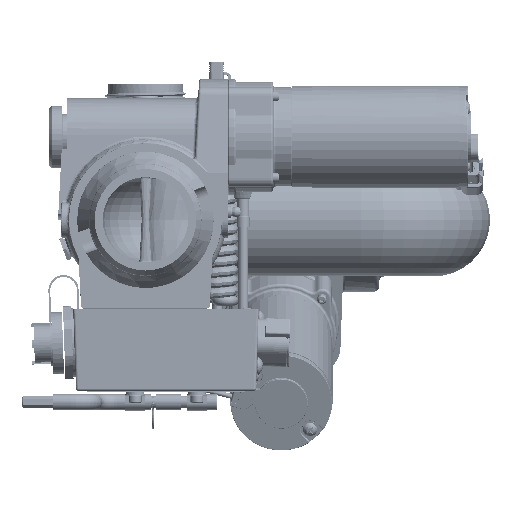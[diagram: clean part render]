
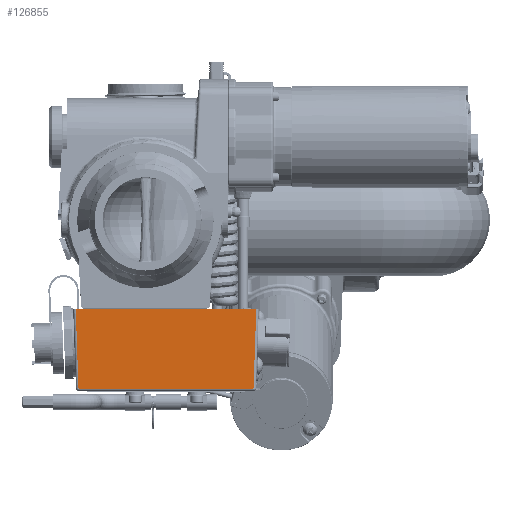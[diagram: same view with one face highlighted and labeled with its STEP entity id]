
A CAD part, front view. The second image highlights one B-rep face of the part: STEP entity #126855.
In plain terms, the highlighted planar face has unit normal (0, -0.999, -0.035) as drawn and (0, -0.035, -0.999) by its records, which use the part's own axes.
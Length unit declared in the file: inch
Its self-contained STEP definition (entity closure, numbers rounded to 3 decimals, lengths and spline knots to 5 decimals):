
#124622=CARTESIAN_POINT('',(-2.19455,0.,-1.63002));
#124633=DIRECTION('',(-1.,0.,0.));
#124634=VECTOR('',#124633,4.38911);
#124635=CARTESIAN_POINT('',(2.19455,0.,-1.63002));
#124636=LINE('',#124635,#124634);
#124646=CARTESIAN_POINT('',(2.19455,0.,-1.63002));
#125674=DIRECTION('',(-0.035,-0.999,0.035));
#125675=VECTOR('',#125674,1.94681);
#125676=CARTESIAN_POINT('',(2.19455,0.,-1.63002));
#125677=LINE('',#125676,#125675);
#125681=DIRECTION('',(0.035,-0.999,0.035));
#125682=VECTOR('',#125681,1.94681);
#125683=CARTESIAN_POINT('',(-2.19455,0.,-1.63002));
#125684=LINE('',#125683,#125682);
#125688=DIRECTION('',(1.,0.,0.));
#125689=VECTOR('',#125688,4.25331);
#125690=CARTESIAN_POINT('',(-2.12666,-1.94444,
-1.56211));
#125691=LINE('',#125690,#125689);
#125931=CARTESIAN_POINT('',(-2.12666,-1.94468,
-1.56211));
#125933=VERTEX_POINT('',#125931);
#125934=CARTESIAN_POINT('',(2.12666,-1.94468,
-1.56211));
#125936=VERTEX_POINT('',#125934);
#125949=VERTEX_POINT('',#124646);
#125950=VERTEX_POINT('',#124622);
#126844=CARTESIAN_POINT('',(2.1875,-2.005,-1.56));
#126845=DIRECTION('',(0.,-0.035,-0.999));
#126846=DIRECTION('',(-1.,0.,0.));
#126847=AXIS2_PLACEMENT_3D('',#126844,#126845,#126846);
#126848=PLANE('',#126847);
#126849=ORIENTED_EDGE('',*,*,#126596,.F.);
#126850=ORIENTED_EDGE('',*,*,#126155,.T.);
#126851=ORIENTED_EDGE('',*,*,#126837,.T.);
#126852=ORIENTED_EDGE('',*,*,#126570,.T.);
#126853=EDGE_LOOP('',(#126849,#126850,#126851,#126852));
#126854=FACE_OUTER_BOUND('',#126853,.F.);
#126855=ADVANCED_FACE('',(#126854),#126848,.T.);
#126155=EDGE_CURVE('',#125949,#125950,#124636,.T.);
#126570=EDGE_CURVE('',#125933,#125936,#125691,.T.);
#126596=EDGE_CURVE('',#125949,#125936,#125677,.T.);
#126837=EDGE_CURVE('',#125950,#125933,#125684,.T.);
